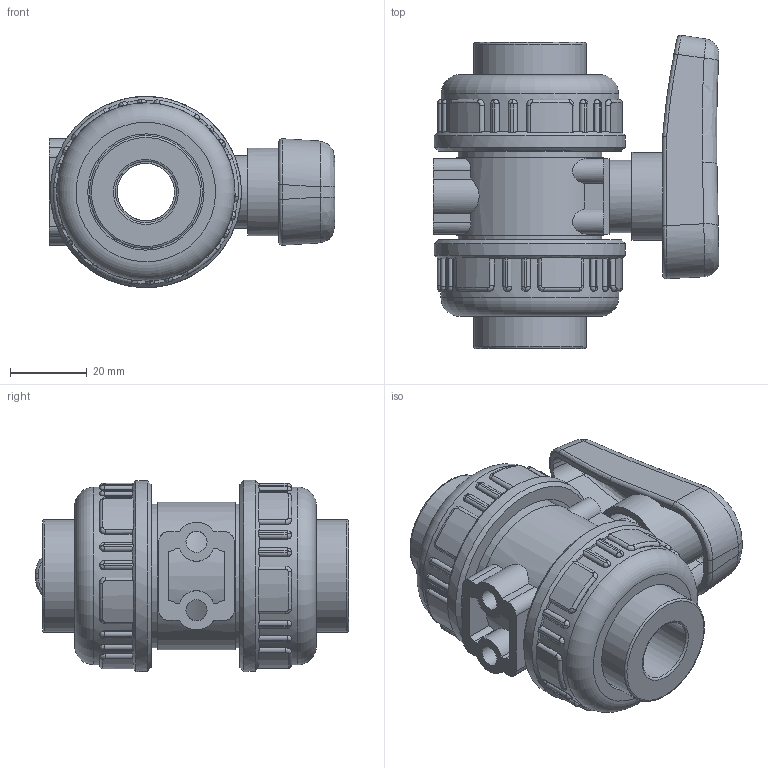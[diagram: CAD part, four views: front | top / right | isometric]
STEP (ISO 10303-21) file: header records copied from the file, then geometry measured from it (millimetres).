
FILE_DESCRIPTION(/* description */ (''),/* implementation_level */ '2;1');
FILE_NAME(/* name */ 'C:\Users\POLYPIPE\Desktop\DATASET INVENTOR\LIBRERIA EFFAST\3D_VALVOLE\3D_VALVOLE A SFERA\3D_BK1\3D_BDRBK1D\3D_BDRBK1D0160.stp',/* time_stamp */ '2018-01-23T15:19:14+01:00',/* author */ ('POLYPIPE'),/* organization */ (''),/* preprocessor_version */ 'ST-DEVELOPER v16.1',/* originating_system */ 'Autodesk Inventor 2016',/* authorisation */ '');
FILE_SCHEMA (('CONFIG_CONTROL_DESIGN'));
Length unit declared in the file: centimetre
Products named in the file (1): 3D_BDRBK1D0160
Bounding box: 74.72 x 81.86 x 50 mm (x, y, z)
Volume: 102067.8 mm3; surface area: 41603.7 mm2
Topology: 3 solids, 3 shells, 572 faces, 1478 edges, 935 vertices
Faces by surface type: plane 194, cylinder 192, bspline 162, torus 20, cone 4
Full cylindrical faces by diameter (mm): 2.5 x4, 5.5 x2, 12 x1, 15 x3, 16 x2, 19 x1, 23 x1, 29.5 x2, 30.4 x2, 35.5 x2, 37.5 x2, 38.6 x1, 40.4 x2, 46.5 x2, 50 x2
Entity records: 62182 total; most frequent: CARTESIAN_POINT 48649, ORIENTED_EDGE 2836, DIRECTION 2401, EDGE_CURVE 1418, VERTEX_POINT 917, AXIS2_PLACEMENT_3D 912, EDGE_LOOP 645, LINE 577
